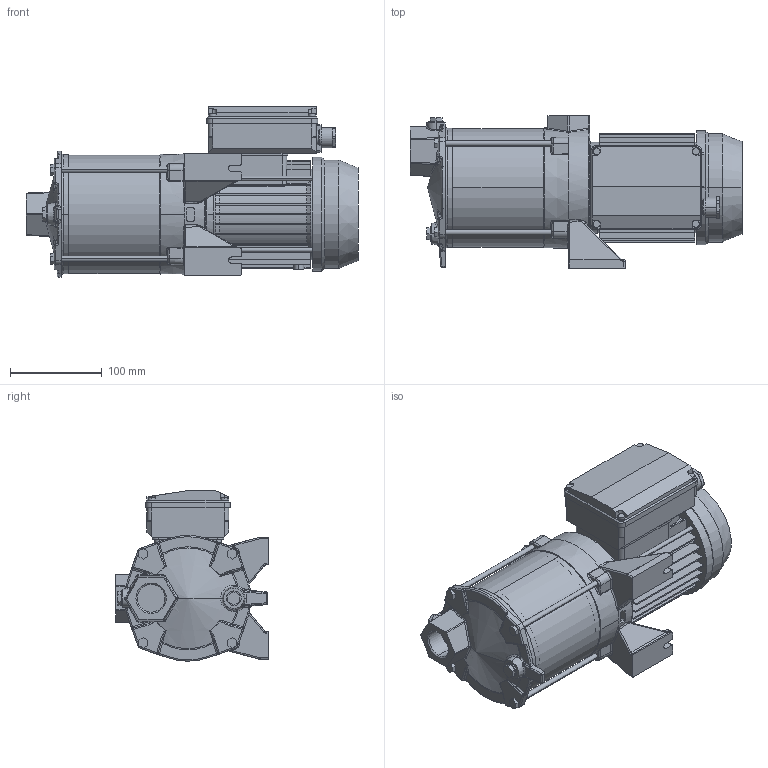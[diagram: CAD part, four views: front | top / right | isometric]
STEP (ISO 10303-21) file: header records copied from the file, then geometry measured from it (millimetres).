
FILE_DESCRIPTION((''),'2;1');
FILE_NAME('COMPACT_AM-8_ASM','2019-09-25T',('rosa'),('"Ebara Pumps Europe +39.444.706811"'),'PRO/ENGINEER BY PARAMETRIC TECHNOLOGY CORPORATION, 2017170','PRO/ENGINEER BY PARAMETRIC TECHNOLOGY CORPORATION, 2017170','');
FILE_SCHEMA(('AUTOMOTIVE_DESIGN { 1 0 10303 214 1 1 1 1 }'));
Length unit declared in the file: millimetre
Products named in the file (7): 2710X_L-99; 80600; MEC_63_MONOFASE_4_TIRANTI; 20998; 40012_M6X138; COPRIMORS_MEC63_E3_SENZA_INT; COMPACT_AM-8_ASM
Assembly tree (9 placements, depth 2):
  COMPACT_AM-8_ASM
    2710X_L-99
    80600
    MEC_63_MONOFASE_4_TIRANTI
    20998
    40012_M6X138  x4
    COPRIMORS_MEC63_E3_SENZA_INT
Bounding box: 361.5 x 166 x 185.5 mm (x, y, z)
Volume: 2541521.4 mm3; surface area: 449387.3 mm2
Topology: 9 solids, 9 shells, 1163 faces, 2754 edges, 1641 vertices
Faces by surface type: plane 420, cylinder 337, bspline 235, cone 85, torus 49, sphere 37
Entity records: 53570 total; most frequent: CARTESIAN_POINT 19876, ORIENTED_EDGE 5360, DIRECTION 4807, PRESENTATION_STYLE_ASSIGNMENT 2687, STYLED_ITEM 2686, CURVE_STYLE 2680, EDGE_CURVE 2680, AXIS2_PLACEMENT_3D 1856
